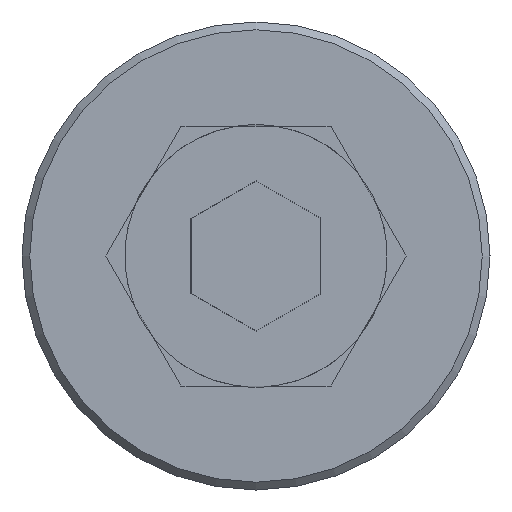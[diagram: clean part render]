
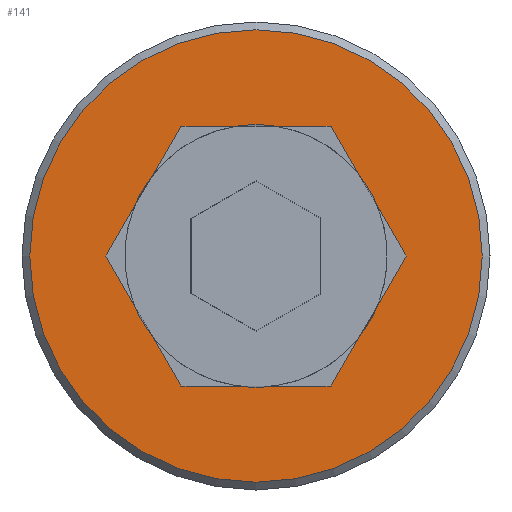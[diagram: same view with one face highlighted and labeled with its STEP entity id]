
A CAD part, left-side view. The second image highlights one B-rep face of the part: STEP entity #141.
In plain terms, the highlighted planar face has unit normal (-1, 0, 0).
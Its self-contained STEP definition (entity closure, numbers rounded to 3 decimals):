
#141 = ADVANCED_FACE( '', ( #294, #295 ), #296, .F. );
#294 = FACE_OUTER_BOUND( '', #441, .T. );
#295 = FACE_BOUND( '', #442, .T. );
#296 = PLANE( '', #443 );
#441 = EDGE_LOOP( '', ( #753 ) );
#442 = EDGE_LOOP( '', ( #754, #755, #756, #757, #758, #759, #760, #761, #762, #763, #764, #765, #766, #767, #768, #769, #770, #771 ) );
#443 = AXIS2_PLACEMENT_3D( '', #772, #773, #774 );
#753 = ORIENTED_EDGE( '', *, *, #808, .F. );
#754 = ORIENTED_EDGE( '', *, *, #858, .T. );
#755 = ORIENTED_EDGE( '', *, *, #914, .T. );
#756 = ORIENTED_EDGE( '', *, *, #829, .T. );
#757 = ORIENTED_EDGE( '', *, *, #872, .T. );
#758 = ORIENTED_EDGE( '', *, *, #905, .T. );
#759 = ORIENTED_EDGE( '', *, *, #888, .T. );
#760 = ORIENTED_EDGE( '', *, *, #869, .T. );
#761 = ORIENTED_EDGE( '', *, *, #891, .T. );
#762 = ORIENTED_EDGE( '', *, *, #844, .T. );
#763 = ORIENTED_EDGE( '', *, *, #867, .T. );
#764 = ORIENTED_EDGE( '', *, *, #910, .T. );
#765 = ORIENTED_EDGE( '', *, *, #804, .T. );
#766 = ORIENTED_EDGE( '', *, *, #864, .T. );
#767 = ORIENTED_EDGE( '', *, *, #898, .T. );
#768 = ORIENTED_EDGE( '', *, *, #908, .T. );
#769 = ORIENTED_EDGE( '', *, *, #861, .T. );
#770 = ORIENTED_EDGE( '', *, *, #885, .T. );
#771 = ORIENTED_EDGE( '', *, *, #855, .T. );
#772 = CARTESIAN_POINT( '', ( 0., 0., 0. ) );
#773 = DIRECTION( '', ( 1., 0., 0. ) );
#774 = DIRECTION( '', ( 0., 0., -1. ) );
#804 = EDGE_CURVE( '', #945, #943, #946, .T. );
#808 = EDGE_CURVE( '', #951, #951, #952, .T. );
#829 = EDGE_CURVE( '', #987, #985, #988, .T. );
#844 = EDGE_CURVE( '', #1008, #1006, #1009, .T. );
#855 = EDGE_CURVE( '', #1025, #1023, #1026, .T. );
#858 = EDGE_CURVE( '', #1023, #1029, #1030, .T. );
#861 = EDGE_CURVE( '', #1035, #1033, #1036, .T. );
#864 = EDGE_CURVE( '', #943, #1038, #1040, .T. );
#867 = EDGE_CURVE( '', #1006, #1043, #1045, .T. );
#869 = EDGE_CURVE( '', #1048, #1046, #1049, .T. );
#872 = EDGE_CURVE( '', #985, #1051, #1053, .T. );
#885 = EDGE_CURVE( '', #1033, #1025, #1071, .T. );
#888 = EDGE_CURVE( '', #1074, #1048, #1075, .T. );
#891 = EDGE_CURVE( '', #1046, #1008, #1078, .T. );
#898 = EDGE_CURVE( '', #1038, #1085, #1086, .T. );
#905 = EDGE_CURVE( '', #1051, #1074, #1094, .T. );
#908 = EDGE_CURVE( '', #1085, #1035, #1097, .T. );
#910 = EDGE_CURVE( '', #1043, #945, #1099, .T. );
#914 = EDGE_CURVE( '', #1029, #987, #1103, .T. );
#943 = VERTEX_POINT( '', #1142 );
#945 = VERTEX_POINT( '', #1145 );
#946 = LINE( '', #1146, #1147 );
#951 = VERTEX_POINT( '', #1153 );
#952 = CIRCLE( '', #1154, 8.7 );
#985 = VERTEX_POINT( '', #1198 );
#987 = VERTEX_POINT( '', #1201 );
#988 = LINE( '', #1202, #1203 );
#1006 = VERTEX_POINT( '', #1226 );
#1008 = VERTEX_POINT( '', #1229 );
#1009 = LINE( '', #1230, #1231 );
#1023 = VERTEX_POINT( '', #1248 );
#1025 = VERTEX_POINT( '', #1251 );
#1026 = LINE( '', #1252, #1253 );
#1029 = VERTEX_POINT( '', #1257 );
#1030 = CIRCLE( '', #1258, 5.05 );
#1033 = VERTEX_POINT( '', #1261 );
#1035 = VERTEX_POINT( '', #1264 );
#1036 = CIRCLE( '', #1265, 5.05 );
#1038 = VERTEX_POINT( '', #1268 );
#1040 = CIRCLE( '', #1271, 5.05 );
#1043 = VERTEX_POINT( '', #1274 );
#1045 = CIRCLE( '', #1277, 5.05 );
#1046 = VERTEX_POINT( '', #1278 );
#1048 = VERTEX_POINT( '', #1281 );
#1049 = CIRCLE( '', #1282, 5.05 );
#1051 = VERTEX_POINT( '', #1285 );
#1053 = CIRCLE( '', #1288, 5.05 );
#1071 = LINE( '', #1308, #1309 );
#1074 = VERTEX_POINT( '', #1313 );
#1075 = LINE( '', #1314, #1315 );
#1078 = LINE( '', #1319, #1320 );
#1085 = VERTEX_POINT( '', #1327 );
#1086 = LINE( '', #1328, #1329 );
#1094 = LINE( '', #1338, #1339 );
#1097 = LINE( '', #1342, #1343 );
#1099 = LINE( '', #1345, #1346 );
#1103 = LINE( '', #1351, #1352 );
#1142 = CARTESIAN_POINT( '', ( 0., 0.709, 5. ) );
#1145 = CARTESIAN_POINT( '', ( 0., 2.887, 5. ) );
#1146 = CARTESIAN_POINT( '', ( 0., 2.887, 5. ) );
#1147 = VECTOR( '', #1370, 1000. );
#1153 = CARTESIAN_POINT( '', ( 0., 0., -8.7 ) );
#1154 = AXIS2_PLACEMENT_3D( '', #1375, #1376, #1377 );
#1198 = CARTESIAN_POINT( '', ( 0., -0.709, -5. ) );
#1201 = CARTESIAN_POINT( '', ( 0., -2.887, -5. ) );
#1202 = CARTESIAN_POINT( '', ( 0., -2.887, -5. ) );
#1203 = VECTOR( '', #1399, 1000. );
#1226 = CARTESIAN_POINT( '', ( 0., 4.685, 1.886 ) );
#1229 = CARTESIAN_POINT( '', ( 0., 5.774, 0. ) );
#1230 = CARTESIAN_POINT( '', ( 0., 5.774, 0. ) );
#1231 = VECTOR( '', #1415, 1000. );
#1248 = CARTESIAN_POINT( '', ( 0., -4.685, -1.886 ) );
#1251 = CARTESIAN_POINT( '', ( 0., -5.774, 0. ) );
#1252 = CARTESIAN_POINT( '', ( 0., -5.774, 0. ) );
#1253 = VECTOR( '', #1426, 1000. );
#1257 = CARTESIAN_POINT( '', ( 0., -3.976, -3.114 ) );
#1258 = AXIS2_PLACEMENT_3D( '', #1428, #1429, #1430 );
#1261 = CARTESIAN_POINT( '', ( 0., -4.685, 1.886 ) );
#1264 = CARTESIAN_POINT( '', ( 0., -3.976, 3.114 ) );
#1265 = AXIS2_PLACEMENT_3D( '', #1435, #1436, #1437 );
#1268 = CARTESIAN_POINT( '', ( 0., -0.709, 5. ) );
#1271 = AXIS2_PLACEMENT_3D( '', #1440, #1441, #1442 );
#1274 = CARTESIAN_POINT( '', ( 0., 3.976, 3.114 ) );
#1277 = AXIS2_PLACEMENT_3D( '', #1447, #1448, #1449 );
#1278 = CARTESIAN_POINT( '', ( 0., 4.685, -1.886 ) );
#1281 = CARTESIAN_POINT( '', ( 0., 3.976, -3.114 ) );
#1282 = AXIS2_PLACEMENT_3D( '', #1451, #1452, #1453 );
#1285 = CARTESIAN_POINT( '', ( 0., 0.709, -5. ) );
#1288 = AXIS2_PLACEMENT_3D( '', #1456, #1457, #1458 );
#1308 = CARTESIAN_POINT( '', ( 0., -2.887, 5. ) );
#1309 = VECTOR( '', #1476, 1000. );
#1313 = CARTESIAN_POINT( '', ( 0., 2.887, -5. ) );
#1314 = CARTESIAN_POINT( '', ( 0., 2.887, -5. ) );
#1315 = VECTOR( '', #1478, 1000. );
#1319 = CARTESIAN_POINT( '', ( 0., 2.887, -5. ) );
#1320 = VECTOR( '', #1480, 1000. );
#1327 = CARTESIAN_POINT( '', ( 0., -2.887, 5. ) );
#1328 = CARTESIAN_POINT( '', ( 0., 2.887, 5. ) );
#1329 = VECTOR( '', #1484, 1000. );
#1338 = CARTESIAN_POINT( '', ( 0., -2.887, -5. ) );
#1339 = VECTOR( '', #1489, 1000. );
#1342 = CARTESIAN_POINT( '', ( 0., -2.887, 5. ) );
#1343 = VECTOR( '', #1490, 1000. );
#1345 = CARTESIAN_POINT( '', ( 0., 5.774, 0. ) );
#1346 = VECTOR( '', #1491, 1000. );
#1351 = CARTESIAN_POINT( '', ( 0., -5.774, 0. ) );
#1352 = VECTOR( '', #1493, 1000. );
#1370 = DIRECTION( '', ( 0., -1., 0. ) );
#1375 = CARTESIAN_POINT( '', ( 0., 0., 0. ) );
#1376 = DIRECTION( '', ( 1., 0., 0. ) );
#1377 = DIRECTION( '', ( 0., 0., -1. ) );
#1399 = DIRECTION( '', ( 0., 1., 0. ) );
#1415 = DIRECTION( '', ( 0., -0.5, 0.866 ) );
#1426 = DIRECTION( '', ( 0., 0.5, -0.866 ) );
#1428 = CARTESIAN_POINT( '', ( 0., 0., 0. ) );
#1429 = DIRECTION( '', ( 1., 0., 0. ) );
#1430 = DIRECTION( '', ( 0., 0., -1. ) );
#1435 = CARTESIAN_POINT( '', ( 0., 0., 0. ) );
#1436 = DIRECTION( '', ( 1., 0., 0. ) );
#1437 = DIRECTION( '', ( 0., 0., -1. ) );
#1440 = CARTESIAN_POINT( '', ( 0., 0., 0. ) );
#1441 = DIRECTION( '', ( 1., 0., 0. ) );
#1442 = DIRECTION( '', ( 0., 0., -1. ) );
#1447 = CARTESIAN_POINT( '', ( 0., 0., 0. ) );
#1448 = DIRECTION( '', ( 1., 0., 0. ) );
#1449 = DIRECTION( '', ( 0., 0., -1. ) );
#1451 = CARTESIAN_POINT( '', ( 0., 0., 0. ) );
#1452 = DIRECTION( '', ( 1., 0., 0. ) );
#1453 = DIRECTION( '', ( 0., 0., -1. ) );
#1456 = CARTESIAN_POINT( '', ( 0., 0., 0. ) );
#1457 = DIRECTION( '', ( 1., 0., 0. ) );
#1458 = DIRECTION( '', ( 0., 0., -1. ) );
#1476 = DIRECTION( '', ( 0., -0.5, -0.866 ) );
#1478 = DIRECTION( '', ( 0., 0.5, 0.866 ) );
#1480 = DIRECTION( '', ( 0., 0.5, 0.866 ) );
#1484 = DIRECTION( '', ( 0., -1., 0. ) );
#1489 = DIRECTION( '', ( 0., 1., 0. ) );
#1490 = DIRECTION( '', ( 0., -0.5, -0.866 ) );
#1491 = DIRECTION( '', ( 0., -0.5, 0.866 ) );
#1493 = DIRECTION( '', ( 0., 0.5, -0.866 ) );
